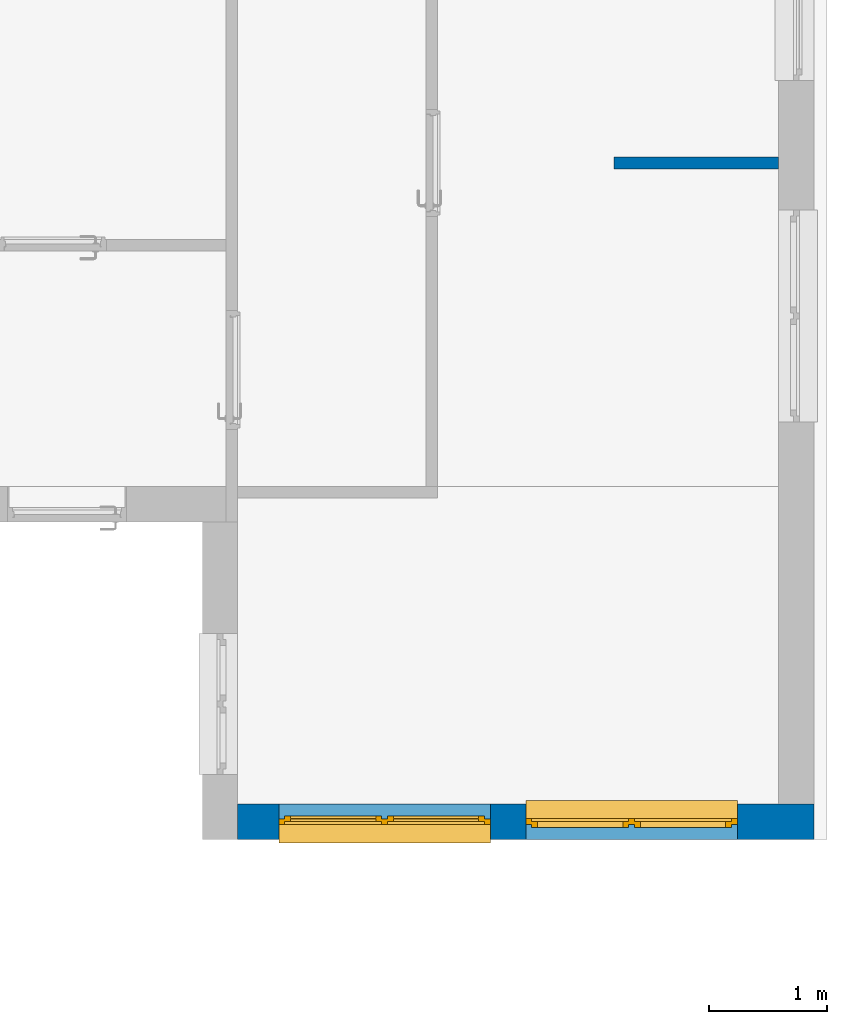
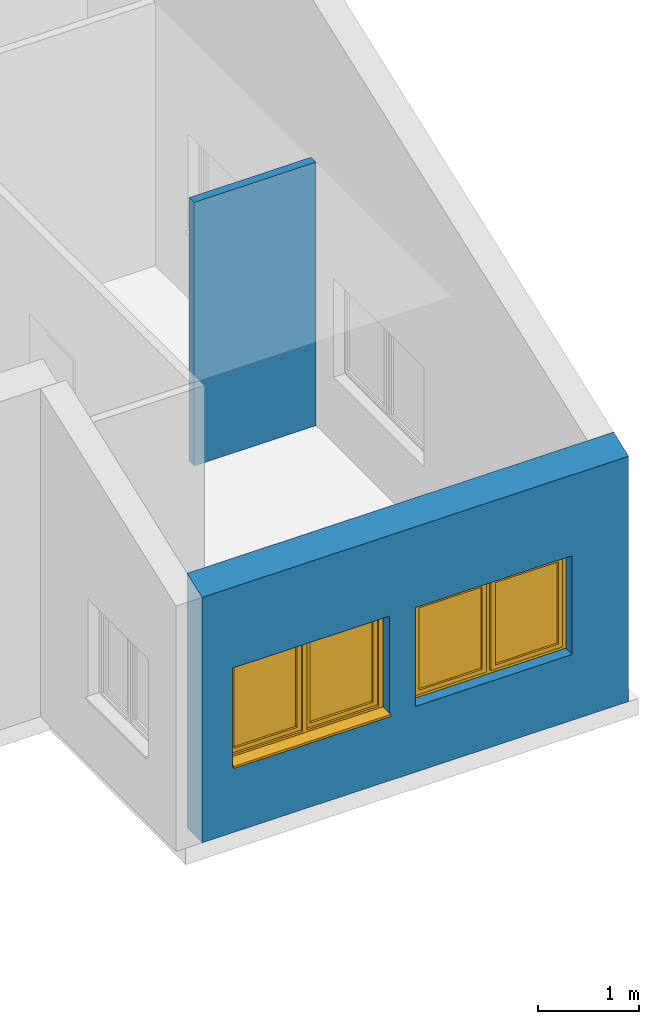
# One storey, part 8 of 23: 2 walls, 2 windows, 2 openings.
"""IFC2X3 building model written with IfcOpenShell, lengths in millimetres."""

from ifc_helpers import new_model, entity, si_unit, converted_unit, direction, frame, frame_2d, origin, origin_2d_with_axis, place, context, subcontext, project, spatial, polyline, rectangle, outline, extrude, clip, bounded_halfspace, source, transform, mapped, material, material_list, layer, layer_set, layer_usage, type_object, type_shapes, element, fill, save


model = new_model("IFC2X3")

# Units and contexts
model_context = context("Model", 3, precision=0.01, world=origin(), true_north=direction((6.123031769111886e-17, 1.0)))
body_context = subcontext(model_context, "Body", "Model", "MODEL_VIEW")
ifc_project = project(units=[si_unit("LENGTHUNIT", "METRE", prefix="MILLI"), converted_unit("PLANEANGLEUNIT", "DEGREE", entity("IfcPlaneAngleMeasure", 0.017453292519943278), si_unit("PLANEANGLEUNIT", "RADIAN"), dimensions=[0, 0, 0, 0, 0, 0, 0]), si_unit("AREAUNIT", "SQUARE_METRE")], contexts=[model_context])

# Site, building, storey
site_placement = place(None, frame((7776.576483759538, 118.3519876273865, 0.0)))
site = spatial("IfcSite", under=ifc_project, at=site_placement, Name="Default", CompositionType="ELEMENT")
building_placement = place(site_placement, origin())
building = spatial("IfcBuilding", under=site, at=building_placement, Name="Bygning (endres i Project Information)", CompositionType="ELEMENT")
storey_placement = place(building_placement, frame((0.0, 0.0, 19000.0)))
storey = spatial("IfcBuildingStorey", under=building, at=storey_placement, Name="Plan 01", CompositionType="ELEMENT", Elevation=19000.0)

# Wall, openings, windows
ifc_material_1 = material(Name="Default Wall")
ifc_layer_1 = layer(ifc_material_1, 300.0)
ifc_layer_set_1 = layer_set([ifc_layer_1], Name="Basic Wall:Generic - 300mm")
ifc_layer_usage_1 = layer_usage(ifc_layer_set_1, "AXIS2", "NEGATIVE", 149.99999999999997)
wall_type_1 = type_object("IfcWallType", Name="Basic Wall:Generic - 300mm", PredefinedType="STANDARD", material=ifc_layer_set_1)
wall_1_placement = place(storey_placement, frame((34974.00137486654, 16847.75730578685, 0.0)))
wall_1 = element("IfcWallStandardCase", 1, at=wall_1_placement, inside=storey, type_object=wall_type_1, material=ifc_layer_usage_1, Name="Basic Wall:Generic - 300mm", ObjectType="Basic Wall:Generic - 300mm", context=body_context, shape_type="Clipping", body=[
    clip(extrude(rectangle(XDim=4900.000000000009, YDim=300.00000000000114, at=frame_2d((2450.0000000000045, 1.7053025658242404e-13), x_axis=(-1.0, 0.0))), origin(), (0.0, 0.0, 1.0), 3091.9254658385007), bounded_halfspace(frame((0.0, -150.0, 2980.124223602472), z_axis=(0.0, -0.34920923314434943, 0.9370447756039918), x_axis=(1.0, 0.0, 0.0)), False, frame((0.0, -150.0, 2980.124223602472)), polyline([(0.0, 0.0), (4900.0, 0.0), (4900.0, 300.0), (4600.0, 300.0), (0.0, 300.0), (0.0, 0.0)]))),
])
opening_1_placement = place(wall_1_placement, frame((2150.0, 150.0, 800.0)))
opening_1 = element("IfcOpeningElement", 2, at=opening_1_placement, cuts=wall_1, Name="Awning Casement double:1800/1200:1", ObjectType="Opening", context=body_context, shape_type="SweptSolid", body=[
    extrude(rectangle(XDim=1199.999999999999, YDim=1799.999999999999, at=frame_2d((600.0, 899.9999999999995), x_axis=(1.0, 0.0))), frame((0.0, 0.0, 0.0), z_axis=(0.0, -1.0, 0.0), x_axis=(0.0, 0.0, 1.0)), (0.0, 0.0, 1.0), 299.99999999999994),
])
opening_2_placement = place(wall_1_placement, frame((2450.0, -150.0, 800.0)))
opening_2 = element("IfcOpeningElement", 3, at=opening_2_placement, cuts=wall_1, Name="Awning Casement double:1800/1200:1", ObjectType="Opening", context=body_context, shape_type="SweptSolid", body=[
    extrude(rectangle(XDim=1199.999999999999, YDim=1799.999999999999, at=frame_2d((600.0, 900.0000000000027), x_axis=(1.0, 0.0))), frame((0.0, 0.0, 0.0), z_axis=(0.0, 1.0, 0.0), x_axis=(0.0, 0.0, 1.0)), (0.0, 0.0, 1.0), 299.99999999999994),
])
ifc_material_2 = material(Name="Glass")
ifc_material_3 = material(Name="Default Frame")
ifc_material_4 = material(Name="Default Sill")
ifc_material_list = material_list([ifc_material_2, ifc_material_3, ifc_material_4])
window_style = type_object("IfcWindowStyle", Name="Awning Casement double:1800/1200", ConstructionType="NOTDEFINED", OperationType="DOUBLE_PANEL_VERTICAL", ParameterTakesPrecedence=False, Sizeable=False, material=ifc_material_list)
shared_shape = source(origin(), body_context, "Body", "SweptSolid", [
    extrude(rectangle(XDim=1.000000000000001, YDim=724.9999999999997, at=origin_2d_with_axis()), frame((1337.500000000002, 125.0, 100.0), z_axis=(0.0, 0.0, 1.0), x_axis=(0.0, 1.0, 0.0)), (0.0, 0.0, 1.0), 999.9999999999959),
    extrude(rectangle(XDim=1.000000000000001, YDim=724.9999999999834, at=origin_2d_with_axis()), frame((462.5000000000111, 125.0, 100.0), z_axis=(0.0, 0.0, 1.0), x_axis=(0.0, 1.0, 0.0)), (0.0, 0.0, 1.0), 999.9999999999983),
    extrude(rectangle(XDim=50.00000000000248, YDim=50.00000000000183, at=origin_2d_with_axis()), frame((900.0, 150.50000000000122, 50.0), z_axis=(0.0, 0.0, 1.0), x_axis=(0.0, 1.0, 0.0)), (0.0, 0.0, 1.0), 1099.9999999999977),
    extrude(outline(polyline([(-550.0, -412.50000000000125), (550.0, -412.50000000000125), (550.0, 412.50000000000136), (-550.0, 412.50000000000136), (-550.0, -412.50000000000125)]), holes=[polyline([(-500.0, -362.499999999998), (-500.0, 362.50000000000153), (500.0, 362.50000000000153), (500.0, -362.499999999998), (-500.0, -362.499999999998)])]), frame((1337.5000000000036, 100.49999999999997, 600.0), z_axis=(0.0, 1.0, 0.0), x_axis=(0.0, 0.0, -1.0)), (0.0, 0.0, 1.0), 49.5),
    extrude(outline(polyline([(-550.0, -412.4999999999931), (550.0, -412.4999999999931), (550.0, 412.4999999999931), (-550.0, 412.4999999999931), (-550.0, -412.4999999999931)]), holes=[polyline([(-500.0, -362.4999999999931), (-500.0, 362.49999999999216), (500.0, 362.49999999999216), (500.0, -362.4999999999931), (-500.0, -362.4999999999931)])]), frame((462.50000000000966, 100.49999999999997, 600.0), z_axis=(0.0, 1.0, 0.0), x_axis=(0.0, 0.0, -1.0)), (0.0, 0.0, 1.0), 49.5),
    extrude(outline(polyline([(-600.0, -900.0), (600.0, -900.0), (600.0, 900.0), (-600.0, 900.0), (-600.0, -900.0)]), holes=[polyline([(-550.0, -850.0), (-550.0, 850.0), (550.0, 850.0), (550.0, -850.0), (-550.0, -850.0)])]), frame((900.0, 125.49999999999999, 600.0), z_axis=(0.0, 1.0, 0.0), x_axis=(0.0, 0.0, -1.0)), (0.0, 0.0, 1.0), 50.00000000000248),
    extrude(rectangle(XDim=154.49999999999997, YDim=1799.999999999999, at=frame_2d((-1.4210854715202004e-14, 0.0), x_axis=(1.0, 0.0))), frame((900.0, 252.74999999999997, 0.0), z_axis=(0.0, 0.0, 1.0), x_axis=(0.0, 1.0, 0.0)), (0.0, 0.0, 1.0), 24.99999999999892),
])
type_shapes(window_style, [shared_shape])
window_1_placement = place(opening_1_placement, frame((0.0, 0.0, 0.0), z_axis=(0.0, 0.0, 1.0), x_axis=(-1.0, 0.0, 0.0)))
window_1 = element("IfcWindow", 4, at=window_1_placement, inside=storey, type_object=window_style, material=ifc_material_list, Name="Awning Casement double:1800/1200", ObjectType="Awning Casement double:1800/1200", OverallHeight=1200.0, OverallWidth=1799.999999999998, context=body_context, shape_type="MappedRepresentation", body=[
    mapped(shared_shape, transform((0.0, 0.0, 0.0), scale=1.0)),
])
fill(opening_1, window_1)
window_2_placement = place(opening_2_placement, origin())
window_2 = element("IfcWindow", 5, at=window_2_placement, inside=storey, type_object=window_style, material=ifc_material_list, Name="Awning Casement double:1800/1200", ObjectType="Awning Casement double:1800/1200", OverallHeight=1200.0, OverallWidth=1800.0000000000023, context=body_context, shape_type="MappedRepresentation", body=[
    mapped(shared_shape, transform((0.0, 0.0, 0.0), scale=1.0)),
])
fill(opening_2, window_2)

# Wall
ifc_layer_2 = layer(ifc_material_1, 100.0)
ifc_layer_set_2 = layer_set([ifc_layer_2], Name="Basic Wall:Generic - 100mm")
ifc_layer_usage_2 = layer_usage(ifc_layer_set_2, "AXIS2", "NEGATIVE", 50.0)
wall_type_2 = type_object("IfcWallType", Name="Basic Wall:Generic - 100mm", PredefinedType="STANDARD", material=ifc_layer_set_2)
wall_2_placement = place(storey_placement, frame((39574.00137486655, 22447.757305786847, 0.0), z_axis=(0.0, 0.0, 1.0), x_axis=(-1.0, 0.0, 0.0)))
element("IfcWallStandardCase", 6, at=wall_2_placement, inside=storey, type_object=wall_type_2, material=ifc_layer_usage_2, Name="Basic Wall:Generic - 100mm", ObjectType="Basic Wall:Generic - 100mm", context=body_context, shape_type="SweptSolid", body=[
    extrude(rectangle(XDim=1400.0000000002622, YDim=100.00000000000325, at=frame_2d((700.0000000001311, 1.5276668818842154e-13), x_axis=(-1.0, 0.0))), origin(), (0.0, 0.0, 1.0), 3200.0),
])

save(model, "model.ifc")
